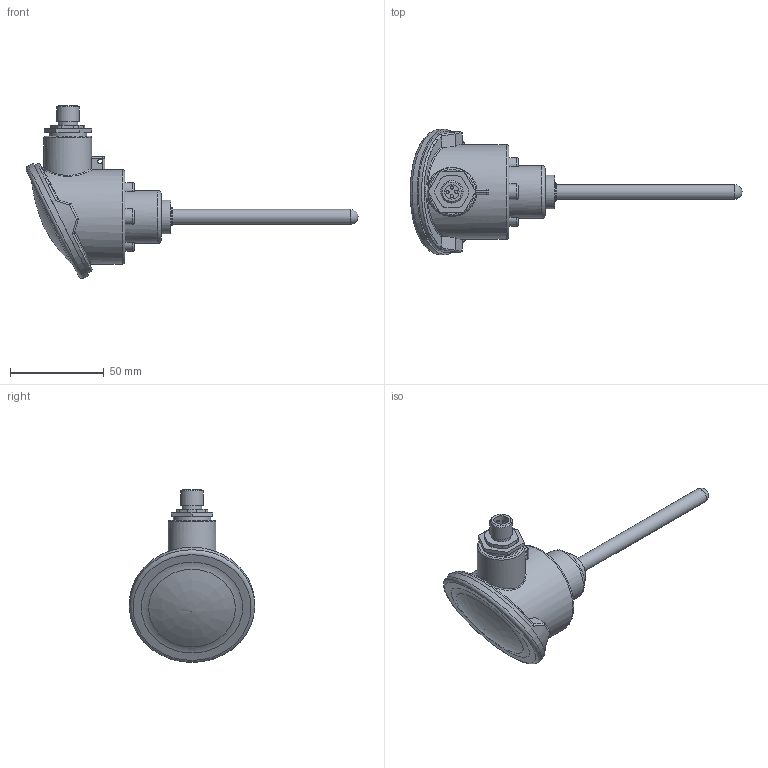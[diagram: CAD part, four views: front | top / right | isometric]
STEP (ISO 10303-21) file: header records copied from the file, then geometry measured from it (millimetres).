
FILE_DESCRIPTION(/* description */ ('Unknown'),/* implementation_level */ '2;1');
FILE_NAME(/* name */ 'TCR6-1120.2111.1010.0610.0100',/* time_stamp */ '2019-02-11T09:38:31+01:00',/* author */ ('Unknown'),/* organization */ ('Unknown'),/* preprocessor_version */ 'ST-DEVELOPER v16.7',/* originating_system */ 'DEX',/* authorisation */ $);
FILE_SCHEMA (('AUTOMOTIVE_DESIGN {1 0 10303 214 3 1 1}'));
Length unit declared in the file: millimetre
Products named in the file (1): Part2
Bounding box: 177.35 x 67 x 92.39 mm (x, y, z)
Volume: 52979 mm3; surface area: 36620.8 mm2
Topology: 3 solids, 4 shells, 159 faces, 378 edges, 247 vertices
Faces by surface type: plane 64, cylinder 45, bspline 18, torus 17, cone 10, sphere 5
Full cylindrical faces by diameter (mm): 1.64 x4, 2.5 x1, 6 x1, 7.709 x1, 8 x1, 8.1 x1, 9.6 x1, 10.5 x1, 11.2 x1, 11.741 x1, 12 x1, 13.1 x1, 13.157 x1, 13.8 x1, 14.376 x2, 15.5 x1, 18 x1, 20 x1, 21 x1, 25.5 x1, 28.2 x1, 47 x1, 50 x1, 50.5 x1, 64.5 x1, 67 x1
Entity records: 6637 total; most frequent: CARTESIAN_POINT 2338, DIRECTION 650, ORIENTED_EDGE 586, EDGE_CURVE 293, AXIS2_PLACEMENT_3D 288, FACE_BOUND 241, EDGE_LOOP 238, VERTEX_POINT 218
